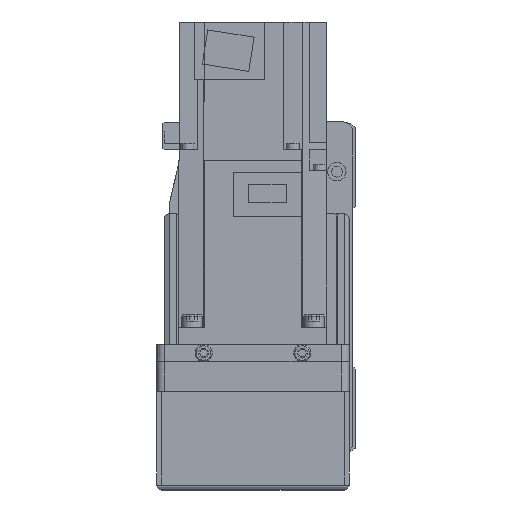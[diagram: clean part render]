
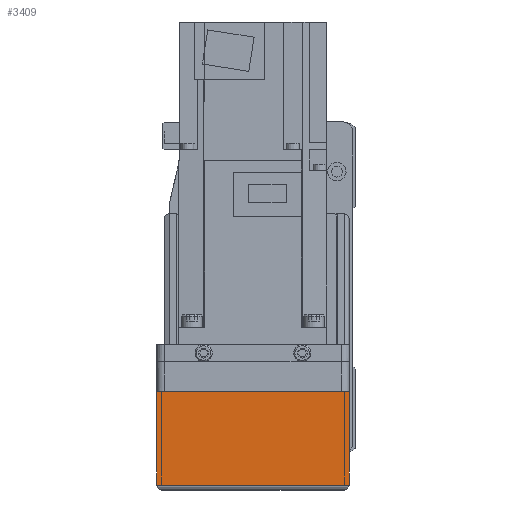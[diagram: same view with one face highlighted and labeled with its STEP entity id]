
A CAD part, left-side view. The second image highlights one B-rep face of the part: STEP entity #3409.
In plain terms, the highlighted planar face has unit normal (-1, 0, 0).
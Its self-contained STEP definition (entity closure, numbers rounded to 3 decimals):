
#3409 = ADVANCED_FACE( '', ( #7115 ), #7116, .F. );
#7115 = FACE_OUTER_BOUND( '', #10794, .T. );
#7116 = PLANE( '', #10795 );
#10794 = EDGE_LOOP( '', ( #20239, #20240, #20241, #20242 ) );
#10795 = AXIS2_PLACEMENT_3D( '', #20243, #20244, #20245 );
#20239 = ORIENTED_EDGE( '', *, *, #23983, .F. );
#20240 = ORIENTED_EDGE( '', *, *, #23529, .F. );
#20241 = ORIENTED_EDGE( '', *, *, #21535, .T. );
#20242 = ORIENTED_EDGE( '', *, *, #22467, .F. );
#20243 = CARTESIAN_POINT( '', ( -158., 36., 7. ) );
#20244 = DIRECTION( '', ( 1., 0., 0. ) );
#20245 = DIRECTION( '', ( 0., 0., -1. ) );
#21535 = EDGE_CURVE( '', #25708, #26049, #26051, .T. );
#22467 = EDGE_CURVE( '', #27509, #26049, #27511, .T. );
#23529 = EDGE_CURVE( '', #25708, #28979, #28980, .T. );
#23983 = EDGE_CURVE( '', #28979, #27509, #29498, .T. );
#25708 = VERTEX_POINT( '', #32000 );
#26049 = VERTEX_POINT( '', #32475 );
#26051 = LINE( '', #32477, #32478 );
#27509 = VERTEX_POINT( '', #34774 );
#27511 = LINE( '', #34777, #34778 );
#28979 = VERTEX_POINT( '', #37279 );
#28980 = LINE( '', #37280, #37281 );
#29498 = LINE( '', #38161, #38162 );
#32000 = CARTESIAN_POINT( '', ( -158., 39., -50. ) );
#32475 = CARTESIAN_POINT( '', ( -158., -39., -50. ) );
#32477 = CARTESIAN_POINT( '', ( -158., 40., -50. ) );
#32478 = VECTOR( '', #39820, 1000. );
#34774 = CARTESIAN_POINT( '', ( -158., -39., -12.1 ) );
#34777 = CARTESIAN_POINT( '', ( -158., -39., -12.1 ) );
#34778 = VECTOR( '', #40950, 1000. );
#37279 = CARTESIAN_POINT( '', ( -158., 39., -12.1 ) );
#37280 = CARTESIAN_POINT( '', ( -158., 39., -50. ) );
#37281 = VECTOR( '', #42135, 1000. );
#38161 = CARTESIAN_POINT( '', ( -158., 50., -12.1 ) );
#38162 = VECTOR( '', #42496, 1000. );
#39820 = DIRECTION( '', ( 0., -1., 0. ) );
#40950 = DIRECTION( '', ( 0., 0., -1. ) );
#42135 = DIRECTION( '', ( 0., 0., 1. ) );
#42496 = DIRECTION( '', ( 0., -1., 0. ) );
